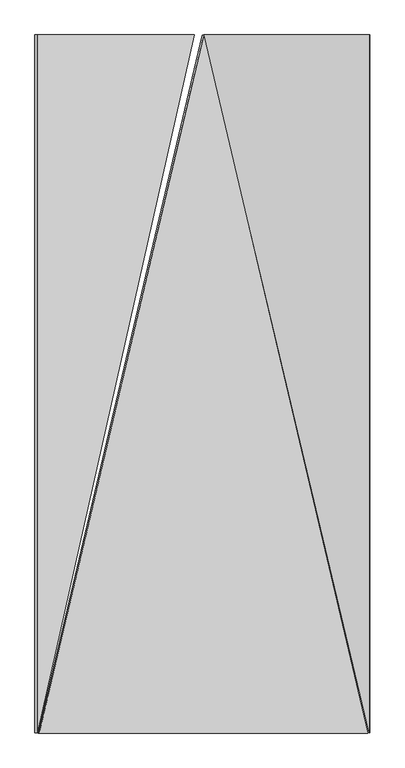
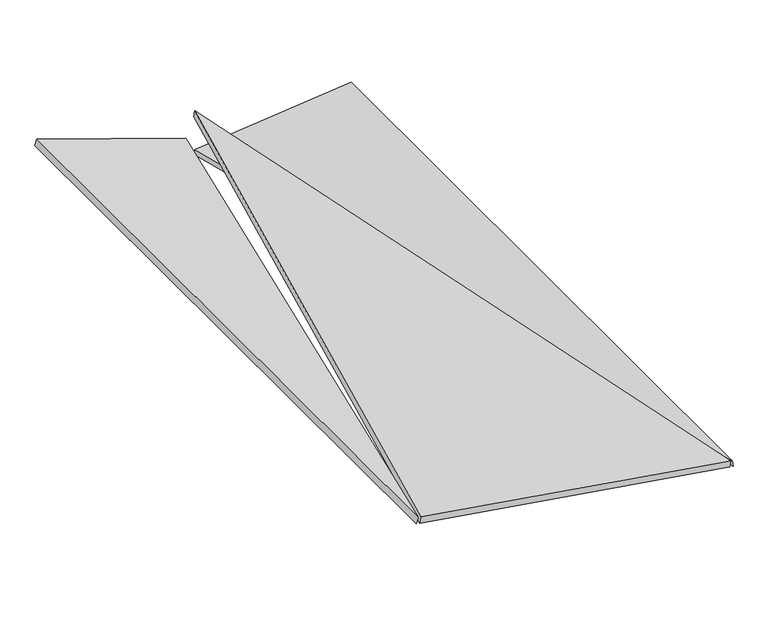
"""IFC4 building model written with IfcOpenShell, lengths in millimetres: proxy geometry, panel sufitowy 6 : panel sufitowy 6."""

from ifc_helpers import new_model, si_unit, frame, origin, place, context, project, spatial, polyline, outline, extrude, source, transform, mapped, element, save


def generic_models_b48fa795(model_context):
    return source(origin(), model_context, "Body", "SweptSolid", [
        extrude(outline(polyline([(-900.9098917, 0.0), (1006.1909889, 962.7191946), (1235.4098448, 0.0), (-900.9098917, 0.0)])), frame((541.6903878, 1457.4151922, 1098.6181655), z_axis=(0.15643446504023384, 0.0, 0.9876883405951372), x_axis=(-0.22876889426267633, -0.9728062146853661, 0.036233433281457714)), (0.0, 0.0, 1.0), 20.0),
        extrude(outline(polyline([(-127.4999999, 0.0), (-127.4999999, -2079.0), (-622.5, 0.0), (-127.4999999, 0.0)])), frame((1373.0986032, 2335.0, 1000.3468109), z_axis=(-0.10452846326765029, 0.0, 0.9945218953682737), x_axis=(0.9945218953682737, 0.0, 0.10452846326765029)), (0.0, 0.0, 1.0), 20.0),
        extrude(outline(polyline([(-127.5, 0.0), (-622.5, 0.0), (-127.5, 2079.0), (-127.5, 0.0)])), frame((128.1782192, 2335.0, 1186.5281812), z_axis=(0.3255681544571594, 0.0, 0.945518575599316), x_axis=(-0.945518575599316, 0.0, 0.3255681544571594)), (0.0, 0.0, 1.0), 20.0),
    ])


if __name__ == "__main__":
    model = new_model("IFC4")
    model_context = context("Model", 3, world=origin())
    ifc_project = project(units=[si_unit("LENGTHUNIT", "METRE", prefix="MILLI")], contexts=[model_context])
    site = spatial("IfcSite", under=ifc_project)
    building = spatial("IfcBuilding", under=site)
    placement = place(None, origin())
    generic_models_shape = generic_models_b48fa795(model_context)
    element("IfcBuildingElementProxy", 1, Name="panel sufitowy 6 : panel sufitowy 6", ObjectType="panel sufitowy 6 : panel sufitowy 6", at=placement, inside=building, context=model_context, shape_type="MappedRepresentation", body=[
        mapped(generic_models_shape, transform((0.0, 0.0, 0.0), x_axis=(1.0, 0.0, 0.0), y_axis=(0.0, 1.0, 0.0), z_axis=(0.0, 0.0, 1.0))),
    ])
    save(model, "model.ifc")
